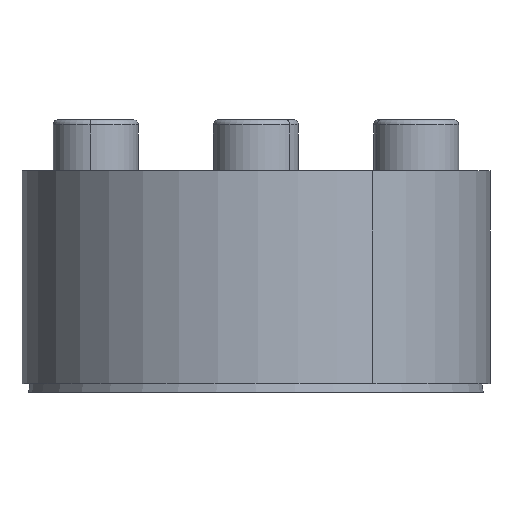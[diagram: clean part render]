
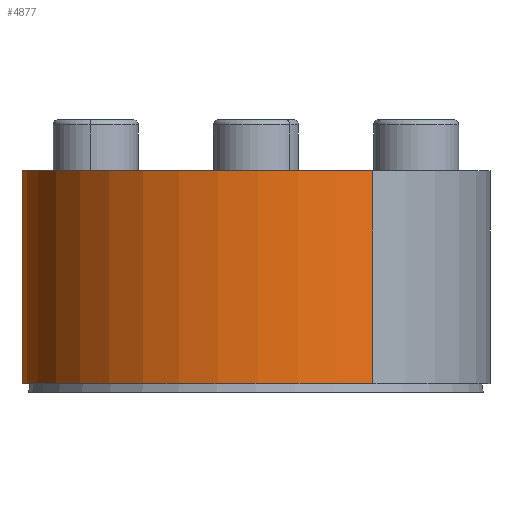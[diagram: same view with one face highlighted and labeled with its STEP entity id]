
A CAD part, front view. The second image highlights one B-rep face of the part: STEP entity #4877.
In plain terms, the highlighted cylindrical face has radius 27.5 mm (diameter 55 mm), a partial arc.
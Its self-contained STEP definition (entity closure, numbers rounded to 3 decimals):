
#220 = VERTEX_POINT ( 'NONE', #5448 ) ;
#467 = LINE ( 'NONE', #7485, #2262 ) ;
#1017 = VECTOR ( 'NONE', #3910, 1000. ) ;
#1624 = DIRECTION ( 'NONE',  ( -0.5, 0.866, 0. ) ) ;
#1797 = CIRCLE ( 'NONE', #4594, 27.5 ) ;
#1871 = EDGE_CURVE ( 'NONE', #6404, #7554, #8913, .T. ) ;
#2262 = VECTOR ( 'NONE', #8255, 1000. ) ;
#2307 = CARTESIAN_POINT ( 'NONE',  ( 13.75, -23.816, 26.024 ) ) ;
#2619 = FACE_OUTER_BOUND ( 'NONE', #9789, .T. ) ;
#3481 = CARTESIAN_POINT ( 'NONE',  ( 0., 0., 1.024 ) ) ;
#3739 = ORIENTED_EDGE ( 'NONE', *, *, #9850, .T. ) ;
#3910 = DIRECTION ( 'NONE',  ( 0., 0., -1. ) ) ;
#4246 = DIRECTION ( 'NONE',  ( 0.5, -0.866, 0. ) ) ;
#4297 = DIRECTION ( 'NONE',  ( 0., 0., -1. ) ) ;
#4350 = VERTEX_POINT ( 'NONE', #2307 ) ;
#4594 = AXIS2_PLACEMENT_3D ( 'NONE', #3481, #8820, #4246 ) ;
#4602 = CARTESIAN_POINT ( 'NONE',  ( -27.482, -1., 1.024 ) ) ;
#4762 = CIRCLE ( 'NONE', #7492, 27.5 ) ;
#4877 = ADVANCED_FACE ( 'NONE', ( #2619 ), #7807, .T. ) ;
#5027 = EDGE_CURVE ( 'NONE', #220, #7554, #1797, .T. ) ;
#5210 = CARTESIAN_POINT ( 'NONE',  ( -27.482, -1., 26.024 ) ) ;
#5448 = CARTESIAN_POINT ( 'NONE',  ( 13.75, -23.816, 1.024 ) ) ;
#6233 = CARTESIAN_POINT ( 'NONE',  ( 0., 0., 1.024 ) ) ;
#6404 = VERTEX_POINT ( 'NONE', #5210 ) ;
#7095 = ORIENTED_EDGE ( 'NONE', *, *, #9761, .T. ) ;
#7485 = CARTESIAN_POINT ( 'NONE',  ( 13.75, -23.816, 1.024 ) ) ;
#7492 = AXIS2_PLACEMENT_3D ( 'NONE', #8878, #4297, #9634 ) ;
#7554 = VERTEX_POINT ( 'NONE', #4602 ) ;
#7755 = DIRECTION ( 'NONE',  ( 0., 0., 1. ) ) ;
#7783 = ORIENTED_EDGE ( 'NONE', *, *, #5027, .F. ) ;
#7807 = CYLINDRICAL_SURFACE ( 'NONE', #7874, 27.5 ) ;
#7874 = AXIS2_PLACEMENT_3D ( 'NONE', #6233, #7755, #1624 ) ;
#8255 = DIRECTION ( 'NONE',  ( 0., 0., 1. ) ) ;
#8604 = ORIENTED_EDGE ( 'NONE', *, *, #1871, .T. ) ;
#8820 = DIRECTION ( 'NONE',  ( 0., 0., -1. ) ) ;
#8878 = CARTESIAN_POINT ( 'NONE',  ( 0., 0., 26.024 ) ) ;
#8913 = LINE ( 'NONE', #9231, #1017 ) ;
#9231 = CARTESIAN_POINT ( 'NONE',  ( -27.482, -1., 1.024 ) ) ;
#9634 = DIRECTION ( 'NONE',  ( 0.5, -0.866, 0. ) ) ;
#9761 = EDGE_CURVE ( 'NONE', #4350, #6404, #4762, .T. ) ;
#9789 = EDGE_LOOP ( 'NONE', ( #7783, #3739, #7095, #8604 ) ) ;
#9850 = EDGE_CURVE ( 'NONE', #220, #4350, #467, .T. ) ;
